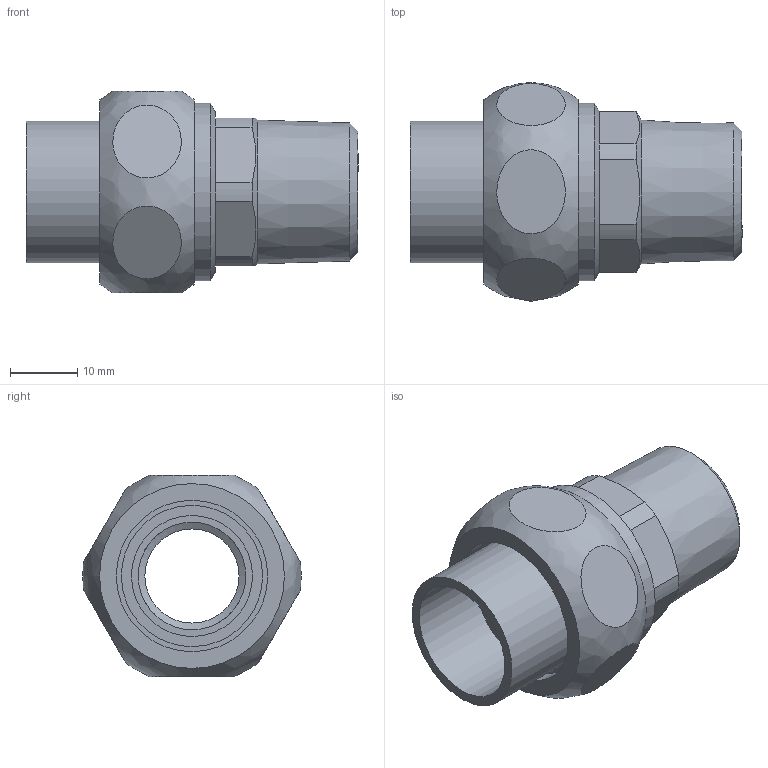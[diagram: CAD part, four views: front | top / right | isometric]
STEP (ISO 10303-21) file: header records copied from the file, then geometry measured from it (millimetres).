
FILE_DESCRIPTION((''),'2;1');
FILE_NAME('\\LG50001\SANHA_Legnica\Engineering\Public\RYSUNKI\SANHA POLSKA\4333g\step\14333g_18-12(1).stp','2014-02-18T06:56:35',('haldrzynski'),(''),'Autodesk Inventor 2009','Autodesk Inventor 2009','');
FILE_SCHEMA(('AUTOMOTIVE_DESIGN { 1 0 10303 214 1 1 1 1 }'));
Length unit declared in the file: millimetre
Products named in the file (5): 14333g_18-12(1); 14374_34(2); 14376G_12-34(2); 14372_18-34(1); 1DCU34
Assembly tree (4 placements, depth 2):
  14333g_18-12(1)
    14374_34(2)
    14376G_12-34(2)
    14372_18-34(1)
    1DCU34
Bounding box: 49.37 x 32.49 x 30 mm (x, y, z)
Volume: 13680.6 mm3; surface area: 10231.6 mm2
Topology: 4 solids, 4 shells, 53 faces, 96 edges, 60 vertices
Faces by surface type: plane 29, cylinder 17, cone 6, bspline 1
Full cylindrical faces by diameter (mm): 14 x1, 16 x2, 17 x1, 18 x1, 21 x1, 22.5 x1, 23 x1, 23.5 x1, 24.117 x1, 26.441 x1
Entity records: 2329 total; most frequent: CARTESIAN_POINT 1188, DIRECTION 232, ORIENTED_EDGE 152, AXIS2_PLACEMENT_3D 107, EDGE_LOOP 88, EDGE_CURVE 76, VERTEX_POINT 58, FACE_OUTER_BOUND 53
